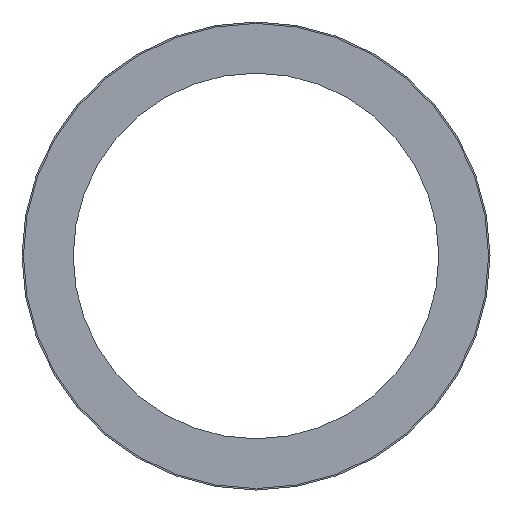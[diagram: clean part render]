
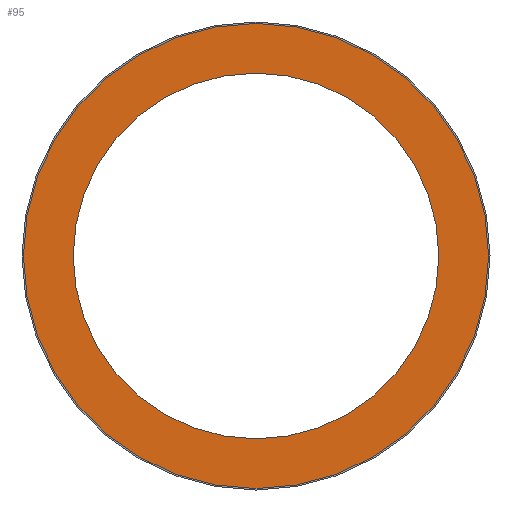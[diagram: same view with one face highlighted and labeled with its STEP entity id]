
A CAD part, left-side view. The second image highlights one B-rep face of the part: STEP entity #95.
In plain terms, the highlighted planar face has unit normal (-1, 0, 0).
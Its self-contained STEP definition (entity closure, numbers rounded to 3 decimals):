
#14=PLANE('',#108);
#19=FACE_BOUND('',#36,.T.);
#20=FACE_BOUND('',#37,.T.);
#36=EDGE_LOOP('',(#76));
#37=EDGE_LOOP('',(#77));
#50=CIRCLE('',#106,15.9);
#52=CIRCLE('',#109,12.5);
#58=VERTEX_POINT('',#157);
#60=VERTEX_POINT('',#162);
#66=EDGE_CURVE('',#58,#58,#50,.T.);
#68=EDGE_CURVE('',#60,#60,#52,.T.);
#76=ORIENTED_EDGE('',*,*,#68,.T.);
#77=ORIENTED_EDGE('',*,*,#66,.T.);
#95=ADVANCED_FACE('',(#19,#20),#14,.T.);
#106=AXIS2_PLACEMENT_3D('',#158,#125,#126);
#108=AXIS2_PLACEMENT_3D('',#161,#129,#130);
#109=AXIS2_PLACEMENT_3D('',#163,#131,#132);
#125=DIRECTION('center_axis',(-1.,0.,0.));
#126=DIRECTION('ref_axis',(0.,0.,1.));
#129=DIRECTION('center_axis',(-1.,0.,0.));
#130=DIRECTION('ref_axis',(0.,0.,-1.));
#131=DIRECTION('center_axis',(1.,0.,0.));
#132=DIRECTION('ref_axis',(0.,0.,1.));
#157=CARTESIAN_POINT('',(-90.,0.,-15.9));
#158=CARTESIAN_POINT('Origin',(-90.,0.,0.));
#161=CARTESIAN_POINT('Origin',(-90.,0.,0.));
#162=CARTESIAN_POINT('',(-90.,0.,-12.5));
#163=CARTESIAN_POINT('Origin',(-90.,0.,0.));
